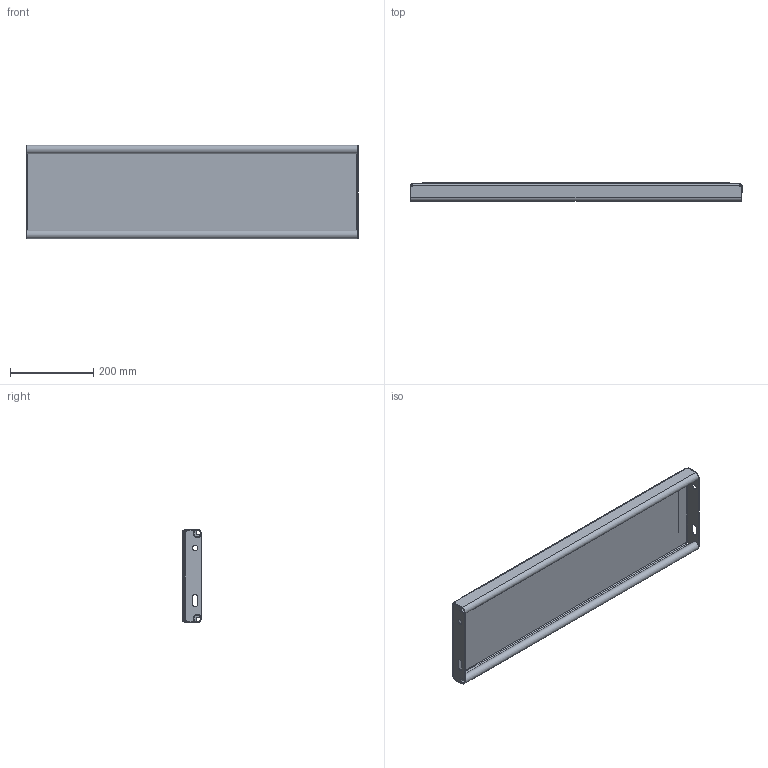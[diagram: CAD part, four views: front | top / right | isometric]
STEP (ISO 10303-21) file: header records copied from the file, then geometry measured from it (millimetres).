
FILE_DESCRIPTION (( 'STEP AP214' ), '1' );
FILE_NAME ('OPTIMO-Tread-Achil-O2-800x225x45x2-st240-F100250100_plain.STEP', '2021-03-16T07:58:43', ( '' ), ( '' ), 'SwSTEP 2.0', 'SolidWorks 2021', '' );
FILE_SCHEMA (( 'AUTOMOTIVE_DESIGN' ));
Length unit declared in the file: millimetre
Products named in the file (1): OPTIMO-Tread-Achil-O2-800x225x45x2-st240-F100250100_plain
Bounding box: 800 x 45 x 225 mm (x, y, z)
Volume: 1119390.2 mm3; surface area: 649144.7 mm2
Topology: 1 solids, 1 shells, 248 faces, 640 edges, 412 vertices
Faces by surface type: plane 173, bspline 39, cylinder 36
Entity records: 9924 total; most frequent: CARTESIAN_POINT 4092, ORIENTED_EDGE 1280, DIRECTION 1022, EDGE_CURVE 640, VECTOR 490, LINE 490, VERTEX_POINT 412, EDGE_LOOP 274
